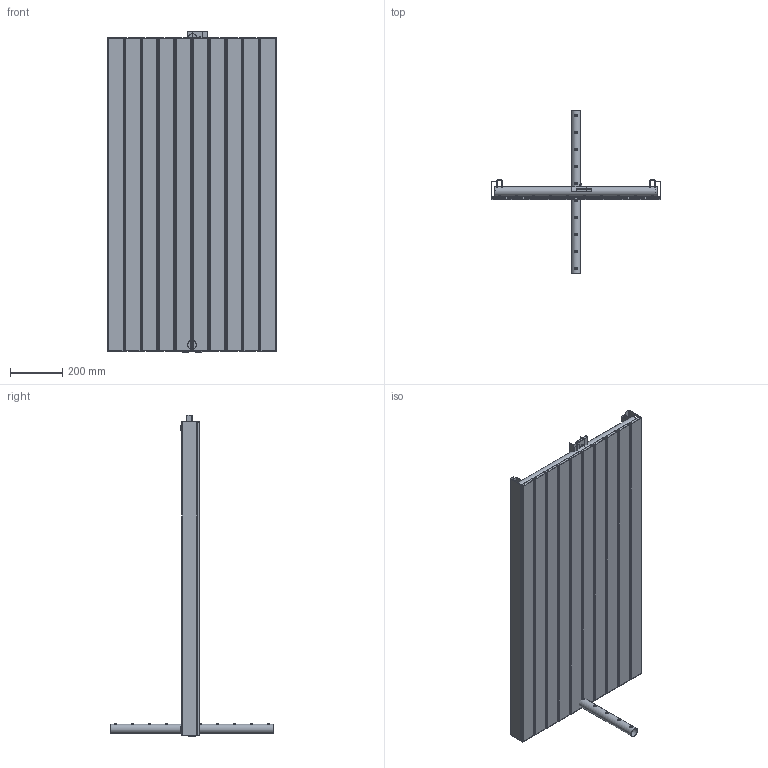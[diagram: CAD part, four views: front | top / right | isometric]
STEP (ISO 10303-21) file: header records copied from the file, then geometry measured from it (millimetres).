
FILE_DESCRIPTION( ( 'Unknown' ), '1' );
FILE_NAME( 'D:/Alplast sp. j/Witryna zespoBu - Projekty/Archiwum/Grzejniki Archiwum/Projekty/DESIGN PROGRAM/GRZEJNIK CAJA/CAJA 4.stp', 'Unknown', ( 'Unknown' ), ( 'Unknown' ), 'PSStep 10.1', 'Unknown', ' ' );
FILE_SCHEMA( ( 'AUTOMOTIVE_DESIGN { 1 0 10303 214 1 1 1 1 }' ) );
Length unit declared in the file: millimetre
Products named in the file (42): Assem1; mufka; mufka-oa0; Zaslepka fi 35; Zaslepka fi 35-oa1; Zaslepka fi 35-oa2; Zaslepka fi 35 z gwintem ; mocowanie ceownik; mocowanie ceownik-oa3; mocowanie ceownik-oa4; mocowanie ceownik-oa5; CAJA kolektor 645; CAJA kolektor 645 D-50; prêt wzmacniaj¹cy caja 2,4; rura 60x10  1200; rura 60x10  1200-oa6; rura 60x10  1200-oa7; rura 60x10  1200-oa8; rura 60x10  1200-oa9; rura 60x10  1200-oa10; rura 60x10  1200-oa11; rura 60x10  1200-oa12; rura 60x10  1200-oa13; rura 60x10  1200-oa14; os³ona boczna 1200; os³ona boczna 1200 z otworem; radiator tylny 1200; radiator tylny 1200-oa15; radiator tylny 1200-oa16; radiator tylny 1200-oa17; radiator tylny 1200-oa18; radiator tylny 1200-oa19; radiator tylny 1200-oa20; radiator tylny 1200-oa21; radiator tylny 1200-oa22; radiator tylny 1200-oa23; radiator tylny 1200-oa24; radiator tylny 1200-oa25; radiator tylny 1200-oa26; radiator tylny 1200-oa27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
Bounding box: 645 x 621 x 1230 mm (x, y, z)
Volume: 7061494.7 mm3; surface area: 11389352.5 mm2
Topology: 82 solids, 82 shells, 1752 faces, 4332 edges, 2664 vertices
Faces by surface type: plane 888, cylinder 564, sphere 160, cone 80, extrusion 40, torus 16, bspline 4
Full cylindrical faces by diameter (mm): 6.023 x40, 8 x40, 15 x4, 18.631 x2, 19 x4, 25 x12, 32 x6, 35 x12
Entity records: 39983 total; most frequent: CARTESIAN_POINT 12800, DIRECTION 4112, ORIENTED_EDGE 3740, EDGE_CURVE 1870, AXIS2_PLACEMENT_3D 1516, VERTEX_POINT 1250, EDGE_LOOP 1126, VECTOR 1080
